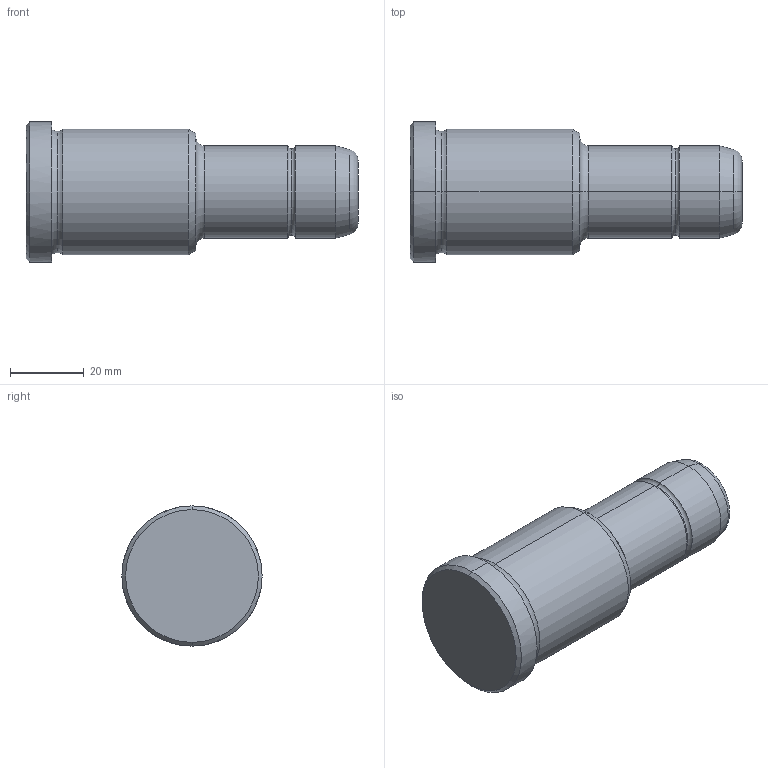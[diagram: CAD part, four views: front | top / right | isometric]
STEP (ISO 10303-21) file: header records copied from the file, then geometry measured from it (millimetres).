
FILE_DESCRIPTION(('CATIA V5 STEP Exchange'),'2;1');
FILE_NAME('C:\Users\Utente\Desktop\IO LAVORO\3D X SITO CF\X SITO\PLASTICA\351\351-25X46X90.stp','2021-08-28T09:15:42+00:00',('none'),('none'),'CATIA Version 5 Release 20 GA (IN-10)','CATIA V5 STEP AP203','none');
FILE_SCHEMA(('CONFIG_CONTROL_DESIGN'));
Length unit declared in the file: millimetre
Products named in the file (1): 351-25X46X90
Bounding box: 90 x 38 x 38 mm (x, y, z)
Volume: 64248.3 mm3; surface area: 10364.2 mm2
Topology: 1 solids, 1 shells, 30 faces, 86 edges, 60 vertices
Faces by surface type: torus 12, cylinder 8, cone 6, plane 4
Entity records: 1112 total; most frequent: CARTESIAN_POINT 289, ORIENTED_EDGE 172, DIRECTION 138, AXIS2_PLACEMENT_3D 95, EDGE_CURVE 86, CIRCLE 64, VERTEX_POINT 60, EDGE_LOOP 32
